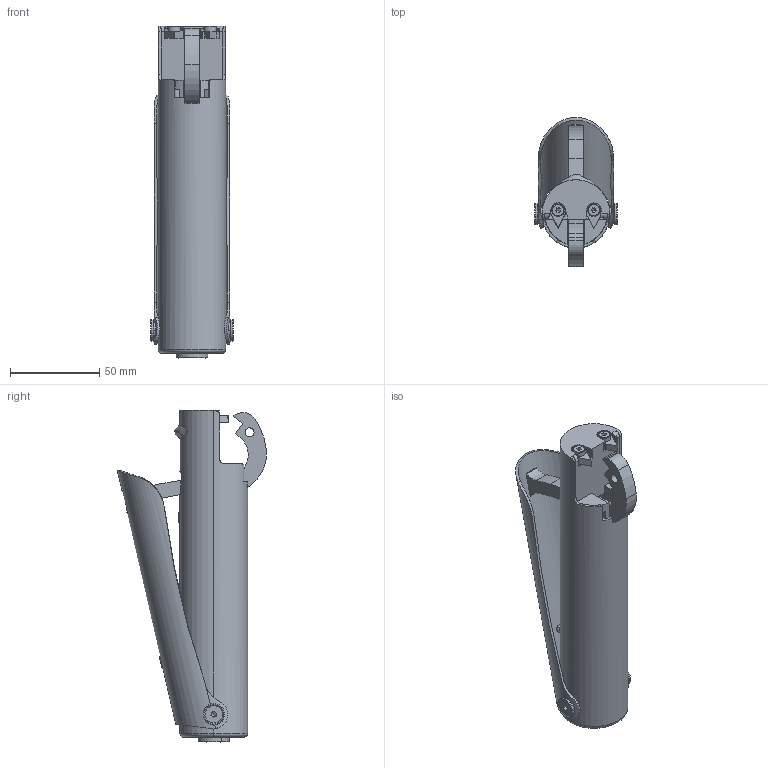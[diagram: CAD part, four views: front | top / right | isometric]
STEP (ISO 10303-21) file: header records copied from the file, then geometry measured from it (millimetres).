
FILE_DESCRIPTION (( 'STEP AP214' ), '1' );
FILE_NAME ('Terra-C_SLS.STEP', '2020-09-30T11:59:09', ( '' ), ( '' ), 'SwSTEP 2.0', 'SolidWorks 2016', '' );
FILE_SCHEMA (( 'AUTOMOTIVE_DESIGN' ));
Length unit declared in the file: millimetre
Products named in the file (1): Terra-C_SLS
Bounding box: 46 x 83.35 x 185.67 mm (x, y, z)
Volume: 196329.7 mm3; surface area: 58610.9 mm2
Topology: 4 solids, 6 shells, 525 faces, 1360 edges, 868 vertices
Faces by surface type: plane 252, cylinder 128, bspline 69, torus 44, cone 32
Entity records: 33145 total; most frequent: CARTESIAN_POINT 14785, ORIENTED_EDGE 2700, DIRECTION 2490, EDGE_CURVE 1350, AXIS2_PLACEMENT_3D 909, VERTEX_POINT 868, VECTOR 672, LINE 672
